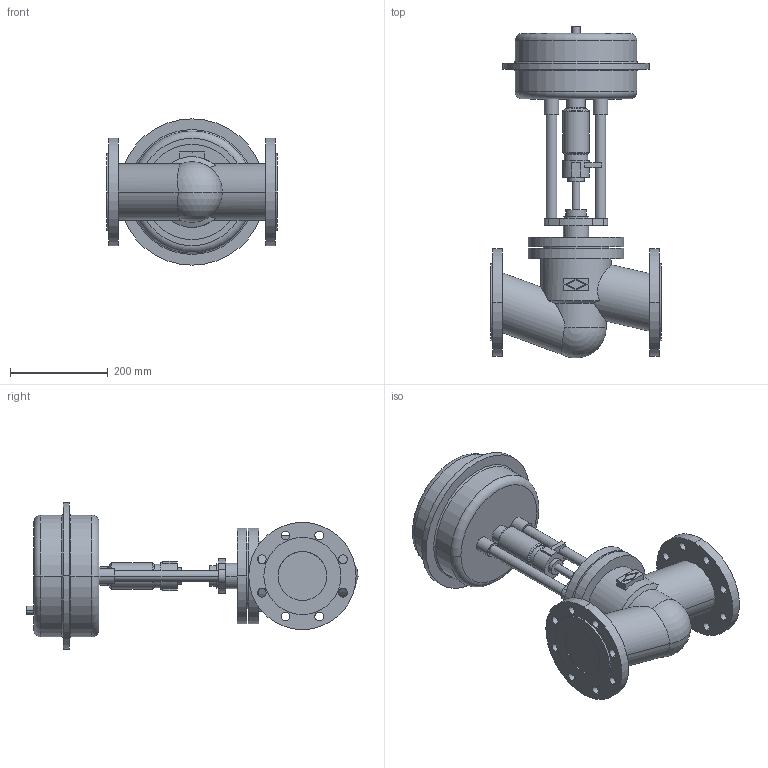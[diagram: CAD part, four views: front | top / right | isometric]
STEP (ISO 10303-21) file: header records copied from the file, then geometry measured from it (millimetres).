
FILE_DESCRIPTION(('OneSpaceDesigner STEP Export'),'2;1');
FILE_NAME('c000001473.stp','2005-02-15T 9:25:00',(''),(''),'OneSpace Designer STEP processor (Jan. 2003) for AP203(Solid Model)','OneSpace Designer 12.01D 09-Jul-2004 (C) CoCreate Software GmbH','');
FILE_SCHEMA(('CONFIG_CONTROL_DESIGN'));
Length unit declared in the file: millimetre
Products named in the file (2): 1; 2
Bounding box: 350 x 680.57 x 300 mm (x, y, z)
Volume: 15010902.7 mm3; surface area: 741564.4 mm2
Topology: 2 solids, 2 shells, 185 faces, 445 edges, 289 vertices
Faces by surface type: cylinder 96, plane 65, torus 16, cone 6, sphere 2
Entity records: 5152 total; most frequent: CARTESIAN_POINT 1059, ORIENTED_EDGE 886, DIRECTION 711, EDGE_CURVE 443, VERTEX_POINT 289, AXIS2_PLACEMENT_3D 262, EDGE_LOOP 244, VECTOR 187
